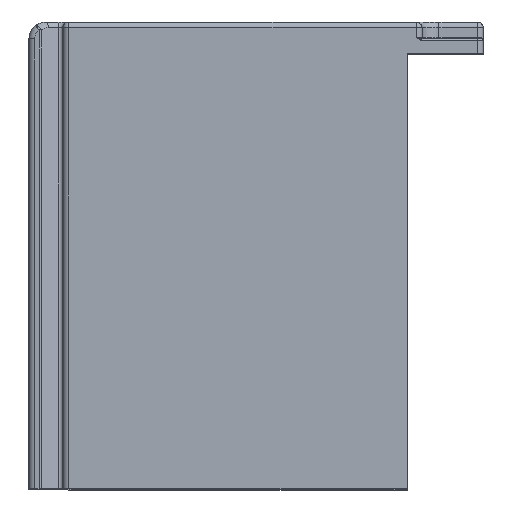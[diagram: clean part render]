
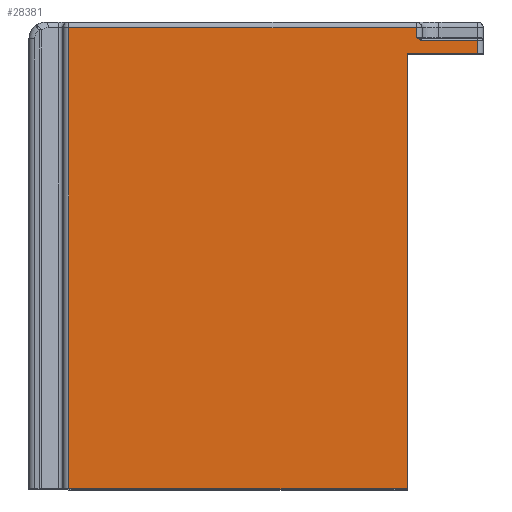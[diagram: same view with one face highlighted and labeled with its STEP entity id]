
A CAD part, top view. The second image highlights one B-rep face of the part: STEP entity #28381.
In plain terms, the highlighted planar face has unit normal (0, 0, 1).
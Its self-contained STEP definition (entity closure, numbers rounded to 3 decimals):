
#2=DIRECTION('',(0.,1.,0.));
#3=VECTOR('',#2,77.);
#4=CARTESIAN_POINT('',(-78.1,-50.,52.5));
#5=LINE('',#4,#3);
#6=DIRECTION('',(-1.,0.,0.));
#7=VECTOR('',#6,59.9);
#8=CARTESIAN_POINT('',(-78.1,-50.,52.5));
#9=LINE('',#8,#7);
#10=DIRECTION('',(0.,-1.,0.));
#11=VECTOR('',#10,81.5);
#12=CARTESIAN_POINT('',(-138.,31.5,52.5));
#13=LINE('',#12,#11);
#14=DIRECTION('',(-1.,0.,0.));
#15=VECTOR('',#14,61.5);
#16=CARTESIAN_POINT('',(-76.5,31.5,52.5));
#17=LINE('',#16,#15);
#18=DIRECTION('',(0.,1.,0.));
#19=VECTOR('',#18,1.8);
#20=CARTESIAN_POINT('',(-76.5,29.7,52.5));
#21=LINE('',#20,#19);
#22=CARTESIAN_POINT('',(-76.202,29.5,52.5));
#23=CARTESIAN_POINT('',(-76.177,29.484,52.5));
#24=CARTESIAN_POINT('',(-76.127,29.456,52.5));
#25=CARTESIAN_POINT('',(-76.056,29.419,52.5));
#26=CARTESIAN_POINT('',(-75.991,29.388,52.5));
#27=CARTESIAN_POINT('',(-75.931,29.364,52.5));
#28=CARTESIAN_POINT('',(-75.876,29.345,52.5));
#29=CARTESIAN_POINT('',(-75.824,29.33,52.5));
#30=CARTESIAN_POINT('',(-75.774,29.318,52.5));
#31=CARTESIAN_POINT('',(-75.726,29.309,52.5));
#32=CARTESIAN_POINT('',(-75.682,29.304,52.5));
#33=CARTESIAN_POINT('',(-75.642,29.301,52.5));
#34=CARTESIAN_POINT('',(-75.617,29.3,52.5));
#35=CARTESIAN_POINT('',(-75.606,29.3,52.5));
#37=DIRECTION('',(1.,0.,0.));
#38=VECTOR('',#37,9.906);
#39=CARTESIAN_POINT('',(-75.606,29.3,52.5));
#40=LINE('',#39,#38);
#41=DIRECTION('',(0.,1.,0.));
#42=VECTOR('',#41,2.3);
#43=CARTESIAN_POINT('',(-65.7,27.,52.5));
#44=LINE('',#43,#42);
#359=DIRECTION('',(1.,0.,0.));
#360=VECTOR('',#359,12.4);
#361=CARTESIAN_POINT('',(-78.1,27.,52.5));
#362=LINE('',#361,#360);
#17918=CARTESIAN_POINT('',(-76.5,29.7,52.5));
#17919=CARTESIAN_POINT('',(-76.473,29.681,
52.5));
#17920=CARTESIAN_POINT('',(-76.416,29.64,
52.5));
#17921=CARTESIAN_POINT('',(-76.314,29.57,
52.5));
#17922=CARTESIAN_POINT('',(-76.241,29.523,
52.5));
#17923=CARTESIAN_POINT('',(-76.202,29.5,52.5));
#22680=CARTESIAN_POINT('',(-76.5,29.7,52.5));
#22682=VERTEX_POINT('',#22680);
#22691=CARTESIAN_POINT('',(-75.606,29.3,52.5));
#22692=VERTEX_POINT('',#22691);
#22789=CARTESIAN_POINT('',(-138.,-50.,52.5));
#22791=VERTEX_POINT('',#22789);
#22795=CARTESIAN_POINT('',(-76.5,31.5,52.5));
#22796=VERTEX_POINT('',#22795);
#22843=CARTESIAN_POINT('',(-138.,31.5,52.5));
#22844=VERTEX_POINT('',#22843);
#22980=CARTESIAN_POINT('',(-65.7,27.,52.5));
#22982=VERTEX_POINT('',#22980);
#22991=CARTESIAN_POINT('',(-65.7,29.3,52.5));
#22992=VERTEX_POINT('',#22991);
#23051=VERTEX_POINT('',#22);
#28158=CARTESIAN_POINT('',(-78.1,-50.,52.5));
#28159=CARTESIAN_POINT('',(-78.1,27.,52.5));
#28160=VERTEX_POINT('',#28158);
#28161=VERTEX_POINT('',#28159);
#28354=CARTESIAN_POINT('',(0.,0.,52.5));
#28355=DIRECTION('',(0.,0.,1.));
#28356=DIRECTION('',(1.,0.,0.));
#28357=AXIS2_PLACEMENT_3D('',#28354,#28355,#28356);
#28358=PLANE('',#28357);
#28360=ORIENTED_EDGE('',*,*,#28359,.F.);
#28362=ORIENTED_EDGE('',*,*,#28361,.F.);
#28364=ORIENTED_EDGE('',*,*,#28363,.T.);
#28366=ORIENTED_EDGE('',*,*,#28365,.F.);
#28368=ORIENTED_EDGE('',*,*,#28367,.F.);
#28370=ORIENTED_EDGE('',*,*,#28369,.F.);
#28372=ORIENTED_EDGE('',*,*,#28371,.T.);
#28374=ORIENTED_EDGE('',*,*,#28373,.T.);
#28376=ORIENTED_EDGE('',*,*,#28375,.T.);
#28378=ORIENTED_EDGE('',*,*,#28377,.F.);
#28379=EDGE_LOOP('',(#28360,#28362,#28364,#28366,#28368,#28370,#28372,#28374,
#28376,#28378));
#28380=FACE_OUTER_BOUND('',#28379,.F.);
#28381=ADVANCED_FACE('',(#28380),#28358,.T.);
#36=B_SPLINE_CURVE_WITH_KNOTS('',3,(#22,#23,#24,#25,#26,#27,#28,#29,#30,#31,#32,
#33,#34,#35),.UNSPECIFIED.,.F.,.F.,(4,1,1,1,1,1,1,1,1,1,1,4),(0.,
0.091,0.182,0.273,0.364,
0.455,0.545,0.636,0.727,
0.818,0.909,1.),.UNSPECIFIED.);
#17924=B_SPLINE_CURVE_WITH_KNOTS('',3,(#17918,#17919,#17920,#17921,#17922,
#17923),.UNSPECIFIED.,.F.,.F.,(4,1,1,4),(0.,0.333,
0.667,1.),.UNSPECIFIED.);
#28359=EDGE_CURVE('',#28161,#22982,#362,.T.);
#28361=EDGE_CURVE('',#28160,#28161,#5,.T.);
#28363=EDGE_CURVE('',#28160,#22791,#9,.T.);
#28365=EDGE_CURVE('',#22844,#22791,#13,.T.);
#28367=EDGE_CURVE('',#22796,#22844,#17,.T.);
#28369=EDGE_CURVE('',#22682,#22796,#21,.T.);
#28371=EDGE_CURVE('',#22682,#23051,#17924,.T.);
#28373=EDGE_CURVE('',#23051,#22692,#36,.T.);
#28375=EDGE_CURVE('',#22692,#22992,#40,.T.);
#28377=EDGE_CURVE('',#22982,#22992,#44,.T.);
